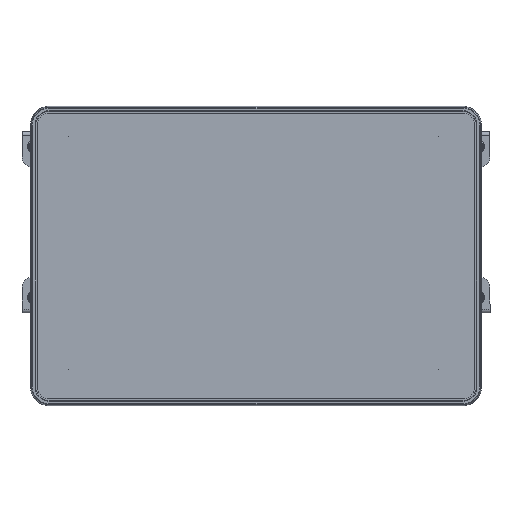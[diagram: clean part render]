
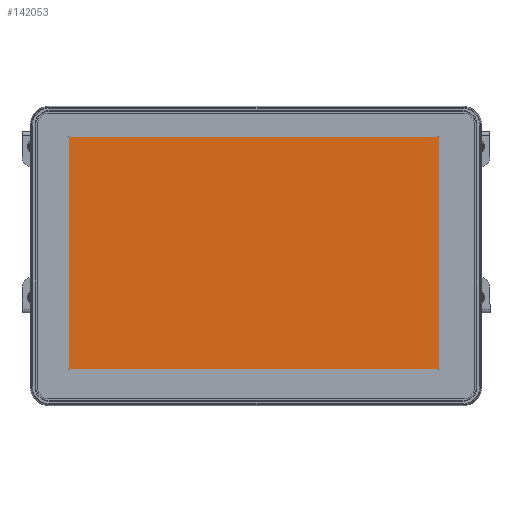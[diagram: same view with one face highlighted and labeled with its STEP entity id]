
A CAD part, top view. The second image highlights one B-rep face of the part: STEP entity #142053.
In plain terms, the highlighted planar face has unit normal (0, 0, 1).
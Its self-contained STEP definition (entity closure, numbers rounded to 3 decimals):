
#2662=PLANE('',#150599);
#8885=FACE_OUTER_BOUND('',#17391,.T.);
#17391=EDGE_LOOP('',(#96882,#96883,#96884,#96885));
#34294=LINE('',#205770,#47256);
#34298=LINE('',#205777,#47260);
#34301=LINE('',#205783,#47263);
#34303=LINE('',#205786,#47265);
#47256=VECTOR('',#162927,10.);
#47260=VECTOR('',#162933,10.);
#47263=VECTOR('',#162938,10.);
#47265=VECTOR('',#162942,10.);
#61314=VERTEX_POINT('',#205767);
#61315=VERTEX_POINT('',#205769);
#61317=VERTEX_POINT('',#205775);
#61319=VERTEX_POINT('',#205781);
#75132=EDGE_CURVE('',#61314,#61315,#34294,.T.);
#75136=EDGE_CURVE('',#61317,#61314,#34298,.T.);
#75139=EDGE_CURVE('',#61319,#61317,#34301,.T.);
#75141=EDGE_CURVE('',#61315,#61319,#34303,.T.);
#96882=ORIENTED_EDGE('',*,*,#75141,.F.);
#96883=ORIENTED_EDGE('',*,*,#75132,.F.);
#96884=ORIENTED_EDGE('',*,*,#75136,.F.);
#96885=ORIENTED_EDGE('',*,*,#75139,.F.);
#142053=ADVANCED_FACE('',(#8885),#2662,.F.);
#150599=AXIS2_PLACEMENT_3D('',#205787,#162943,#162944);
#162927=DIRECTION('',(0.,1.,0.));
#162933=DIRECTION('',(-1.,0.,0.));
#162938=DIRECTION('',(0.,-1.,0.));
#162942=DIRECTION('',(1.,0.,0.));
#162943=DIRECTION('center_axis',(0.,0.,
-1.));
#162944=DIRECTION('ref_axis',(-1.,0.,0.));
#205767=CARTESIAN_POINT('',(-110.29,-66.68,1.829));
#205769=CARTESIAN_POINT('',(-110.29,70.32,1.829));
#205770=CARTESIAN_POINT('',(-110.29,-66.68,1.829));
#205775=CARTESIAN_POINT('',(107.71,-66.68,1.829));
#205777=CARTESIAN_POINT('',(107.71,-66.68,1.829));
#205781=CARTESIAN_POINT('',(107.71,70.32,1.829));
#205783=CARTESIAN_POINT('',(107.71,70.32,1.829));
#205786=CARTESIAN_POINT('',(-110.29,70.32,1.829));
#205787=CARTESIAN_POINT('Origin',(-1.29,1.82,1.829));
